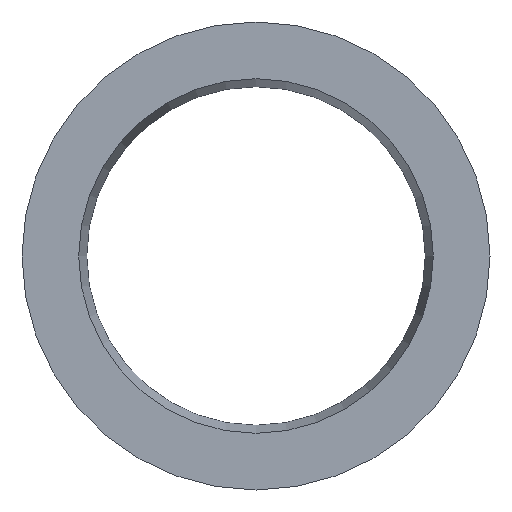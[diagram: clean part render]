
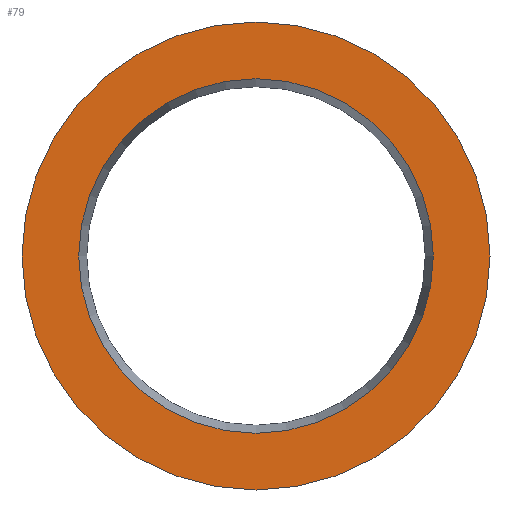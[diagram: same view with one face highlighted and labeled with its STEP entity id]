
A CAD part, front view. The second image highlights one B-rep face of the part: STEP entity #79.
In plain terms, the highlighted planar face has unit normal (0, -1, 0).
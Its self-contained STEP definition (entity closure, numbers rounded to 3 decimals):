
#79 = ADVANCED_FACE( '', ( #94, #95 ), #96, .T. );
#94 = FACE_OUTER_BOUND( '', #112, .T. );
#95 = FACE_BOUND( '', #113, .T. );
#96 = PLANE( '', #114 );
#112 = EDGE_LOOP( '', ( #138 ) );
#113 = EDGE_LOOP( '', ( #139 ) );
#114 = AXIS2_PLACEMENT_3D( '', #140, #141, #142 );
#138 = ORIENTED_EDGE( '', *, *, #153, .T. );
#139 = ORIENTED_EDGE( '', *, *, #152, .F. );
#140 = CARTESIAN_POINT( '', ( 7.5, 0., 0. ) );
#141 = DIRECTION( '', ( 0., -1., 0. ) );
#142 = DIRECTION( '', ( 0., 0., -1. ) );
#152 = EDGE_CURVE( '', #162, #162, #163, .T. );
#153 = EDGE_CURVE( '', #164, #164, #165, .T. );
#162 = VERTEX_POINT( '', #174 );
#163 = CIRCLE( '', #175, 7.5 );
#164 = VERTEX_POINT( '', #176 );
#165 = CIRCLE( '', #177, 9.9 );
#174 = CARTESIAN_POINT( '', ( 0., 0., -7.5 ) );
#175 = AXIS2_PLACEMENT_3D( '', #190, #191, #192 );
#176 = CARTESIAN_POINT( '', ( 0., 0., -9.9 ) );
#177 = AXIS2_PLACEMENT_3D( '', #193, #194, #195 );
#190 = CARTESIAN_POINT( '', ( 0., 0., 0. ) );
#191 = DIRECTION( '', ( 0., -1., 0. ) );
#192 = DIRECTION( '', ( 0., 0., -1. ) );
#193 = CARTESIAN_POINT( '', ( 0., 0., 0. ) );
#194 = DIRECTION( '', ( 0., -1., 0. ) );
#195 = DIRECTION( '', ( 0., 0., -1. ) );
